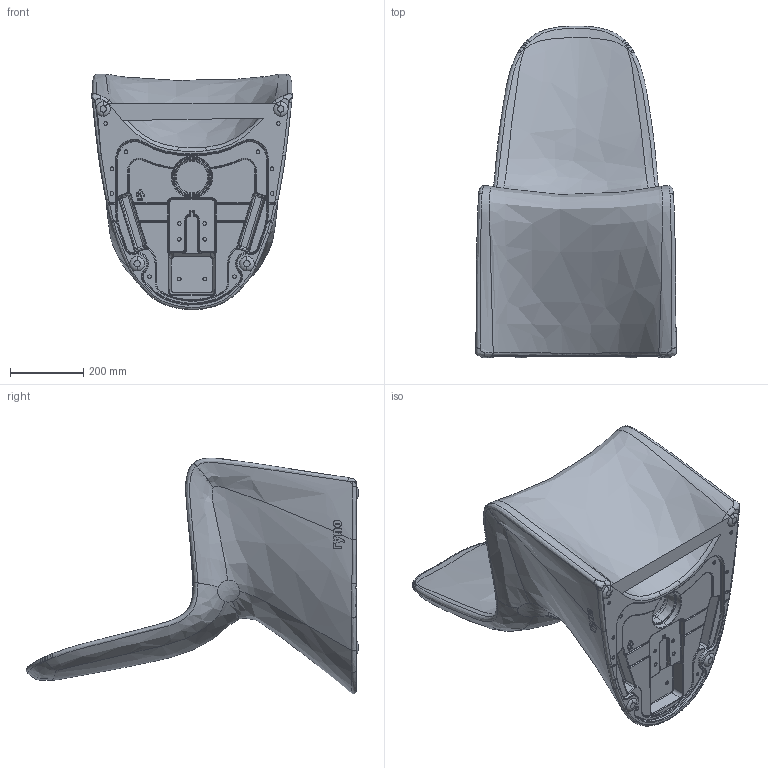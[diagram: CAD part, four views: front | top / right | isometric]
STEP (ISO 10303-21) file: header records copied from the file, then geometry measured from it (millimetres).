
FILE_DESCRIPTION (( 'STEP AP214' ), '1' );
FILE_NAME ('PCPD1867-01-01-RevD Ryno Dining 2.0.STEP', '2025-06-06T13:13:36', ( '' ), ( '' ), 'SwSTEP 2.0', 'SolidWorks 2025', '' );
FILE_SCHEMA (( 'AUTOMOTIVE_DESIGN' ));
Products named in the file (1): PCPD1867-01-01-RevD Ryno Dining 2.0
Bounding box: 547.81 x 907.92 x 644.92 mm (x, y, z)
Volume: 86981439 mm3; surface area: 1735041.2 mm2
Topology: 1 solids, 1 shells, 720 faces, 1788 edges, 1097 vertices
Faces by surface type: bspline 298, cylinder 180, plane 177, sphere 30, torus 29, cone 6
Entity records: 51426 total; most frequent: CARTESIAN_POINT 36685, ORIENTED_EDGE 3560, DIRECTION 2373, EDGE_CURVE 1780, VERTEX_POINT 1097, AXIS2_PLACEMENT_3D 884, EDGE_LOOP 755, FACE_OUTER_BOUND 720
